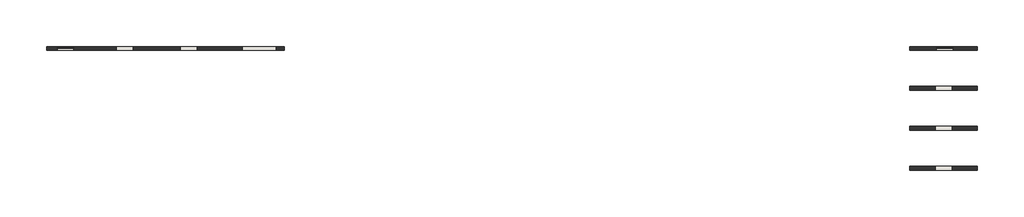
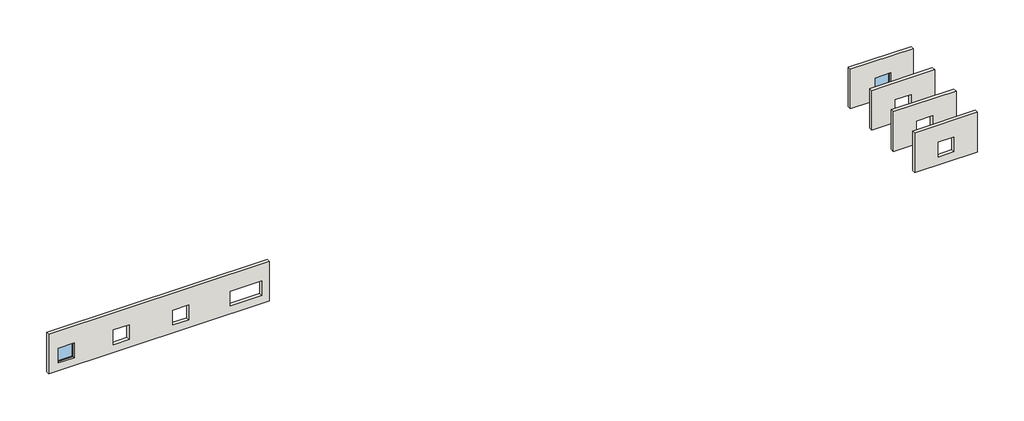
# One storey, incomplete: 5 walls, 2 windows.
"""IFC4 building model written with IfcOpenShell, lengths in millimetres."""

from ifc_helpers import new_model, si_unit, frame, origin, place, context, project, spatial, polyline, outline, extrude, transform, mapped, element, save
from components import fixed_window_83cbd5bc, fixed_window_ec2997ee

model = new_model("IFC4")

# Units and contexts
model_context = context("Model", 3, world=origin())
ifc_project = project(units=[si_unit("LENGTHUNIT", "METRE", prefix="MILLI")], contexts=[model_context])

# Site, building, storey
site = spatial("IfcSite", under=ifc_project)
building = spatial("IfcBuilding", under=site)
storey = spatial("IfcBuildingStorey", under=building, Name="REY 01 - Overview Windows", Elevation=0.0)

# Walls
placement = place(None, origin())
element("IfcWall", 1, ObjectType="21_SPM_90-30-80-140-10", at=placement, inside=storey, context=model_context, shape_type="SweptSolid", body=[
    extrude(outline(polyline([(0.0, -8715.6752344), (0.0, 12384.3247656), (4000.0, 12384.3247656), (4000.0, -8715.6752344), (0.0, -8715.6752344)]), holes=[polyline([(2300.0, -7778.1752344), (2300.0, -6278.1752344), (800.0, -6278.1752344), (800.0, -7778.1752344), (2300.0, -7778.1752344)]), polyline([(2300.0, -2528.1752344), (2300.0, -1028.1752344), (800.0, -1028.1752344), (800.0, -2528.1752344), (2300.0, -2528.1752344)]), polyline([(2300.0, 8671.8247656), (2300.0, 11671.8247656), (800.0, 11671.8247656), (800.0, 8671.8247656), (2300.0, 8671.8247656)]), polyline([(2300.0, 3171.8247656), (2300.0, 4671.8247656), (800.0, 4671.8247656), (800.0, 3171.8247656), (2300.0, 3171.8247656)])]), frame((0.0, 9260.7590232, 0.0), z_axis=(0.0, 1.0, 0.0), x_axis=(0.0, 0.0, 1.0)), (0.0, 0.0, 1.0), 350.0),
])
element("IfcWall", 2, ObjectType="21_SPM_90-30-80-140-10", at=placement, inside=storey, context=model_context, shape_type="SweptSolid", body=[
    extrude(outline(polyline([(0.0, 67971.8247656), (0.0, 73971.8247656), (4000.0, 73971.8247656), (4000.0, 67971.8247656), (0.0, 67971.8247656)]), holes=[polyline([(2300.0, 70221.8247656), (2300.0, 71721.8247656), (800.0, 71721.8247656), (800.0, 70221.8247656), (2300.0, 70221.8247656)])]), frame((0.0, 5712.8975638, 0.0), z_axis=(0.0, 1.0, 0.0), x_axis=(0.0, 0.0, 1.0)), (0.0, 0.0, 1.0), 350.0),
])
element("IfcWall", 3, ObjectType="21_SPM_90-30-80-140-10", at=placement, inside=storey, context=model_context, shape_type="SweptSolid", body=[
    extrude(outline(polyline([(0.0, 67971.8247656), (0.0, 73971.8247656), (4000.0, 73971.8247656), (4000.0, 67971.8247656), (0.0, 67971.8247656)]), holes=[polyline([(2300.0, 70321.8247656), (2300.0, 71821.8247656), (800.0, 71821.8247656), (800.0, 70321.8247656), (2300.0, 70321.8247656)])]), frame((0.0, 9260.7590232, 0.0), z_axis=(0.0, 1.0, 0.0), x_axis=(0.0, 0.0, 1.0)), (0.0, 0.0, 1.0), 350.0),
])
element("IfcWall", 4, ObjectType="21_SPM_90-30-80-140-10", at=placement, inside=storey, context=model_context, shape_type="SweptSolid", body=[
    extrude(outline(polyline([(0.0, 67971.8247656), (0.0, 73971.8247656), (4000.0, 73971.8247656), (4000.0, 67971.8247656), (0.0, 67971.8247656)]), holes=[polyline([(2300.0, 70221.8247656), (2300.0, 71721.8247656), (800.0, 71721.8247656), (800.0, 70221.8247656), (2300.0, 70221.8247656)])]), frame((0.0, -1387.1024362, 0.0), z_axis=(0.0, 1.0, 0.0), x_axis=(0.0, 0.0, 1.0)), (0.0, 0.0, 1.0), 350.0),
])
element("IfcWall", 5, ObjectType="21_SPM_90-30-80-140-10", at=placement, inside=storey, context=model_context, shape_type="SweptSolid", body=[
    extrude(outline(polyline([(0.0, 67971.8247656), (0.0, 73971.8247656), (4000.0, 73971.8247656), (4000.0, 67971.8247656), (0.0, 67971.8247656)]), holes=[polyline([(2300.0, 70221.8247656), (2300.0, 71721.8247656), (800.0, 71721.8247656), (800.0, 70221.8247656), (2300.0, 70221.8247656)])]), frame((0.0, 2160.7590232, 0.0), z_axis=(0.0, 1.0, 0.0), x_axis=(0.0, 0.0, 1.0)), (0.0, 0.0, 1.0), 350.0),
])

# Windows
fixed_window_shape = fixed_window_83cbd5bc(model_context)
element("IfcWindow", 6, ObjectType="Windows_Fixed-Frames_Reynaers_SL-68_Fixed : Fixed Window", at=placement, inside=storey, context=model_context, shape_type="MappedRepresentation", body=[
    mapped(fixed_window_shape, transform((-7028.1752344, 9435.7590232, 0.0), x_axis=(-1.0, 0.0, 0.0), y_axis=(0.0, -1.0, 0.0), z_axis=(0.0, 0.0, 1.0))),
])
fixed_window_2_shape = fixed_window_ec2997ee(model_context)
element("IfcWindow", 7, ObjectType="Windows_Fixed-Frames_Reynaers_SL-68_Fixed : Fixed Window", at=placement, inside=storey, context=model_context, shape_type="MappedRepresentation", body=[
    mapped(fixed_window_2_shape, transform((71071.8247656, 9435.7590232, 0.0), x_axis=(1.0, 0.0, 0.0), y_axis=(0.0, 1.0, 0.0), z_axis=(0.0, 0.0, 1.0))),
])

save(model, "model.ifc")
